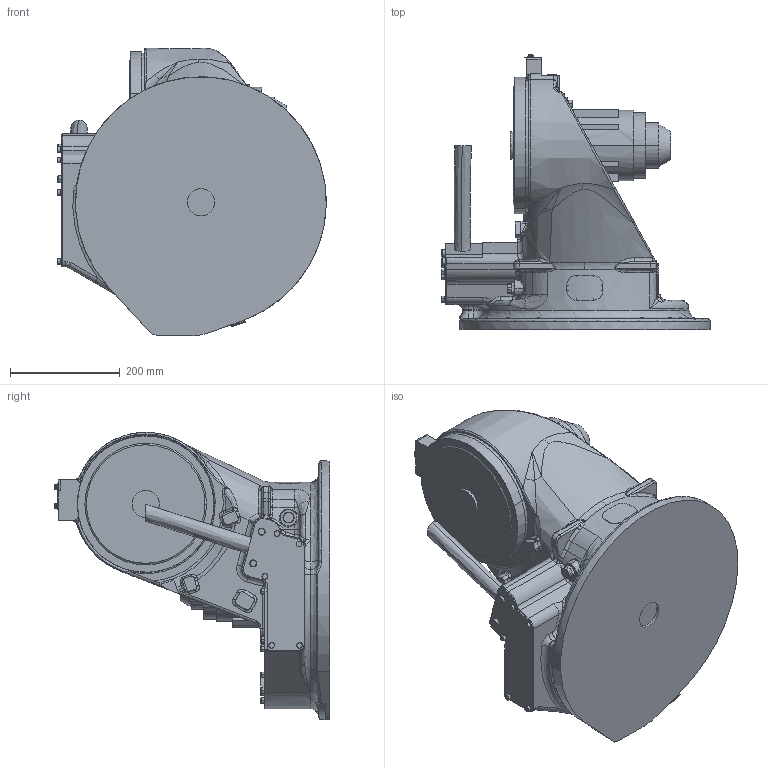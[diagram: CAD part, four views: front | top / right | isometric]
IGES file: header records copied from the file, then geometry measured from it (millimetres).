
Start section:  PTC IGES file: gp25-c00_s-axis.igs
Global section: file name: gp25-c00_s-axis.igs; native system: Creo Parametric by Parametric Technology Corporation; preprocessor: 2015030; author: ip-naka; organization: Unknown; date: 20180604.190522; units: millimetre
Bounding box: 490.5 x 502.97 x 524.69 mm (x, y, z)
Volume: 24348582.2 mm3; surface area: 1185351.2 mm2
Topology: 1 solids, 17 shells, 1467 faces, 3488 edges, 2164 vertices
Faces by surface type: revolution 774, bspline 693
